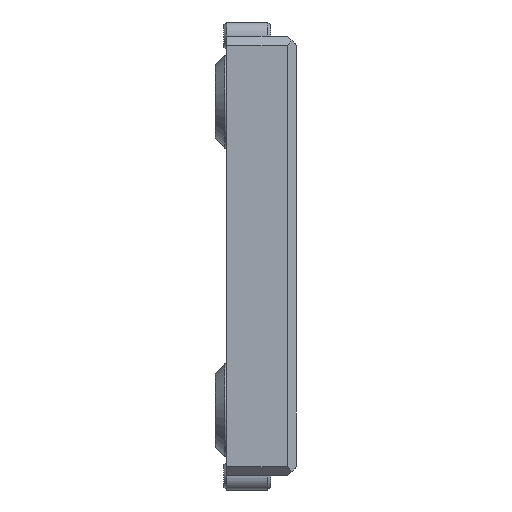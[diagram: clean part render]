
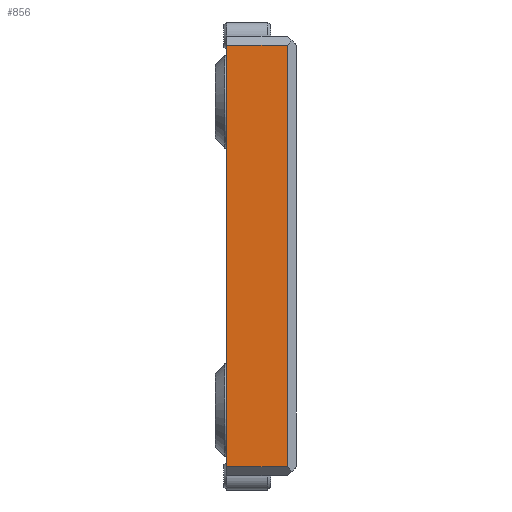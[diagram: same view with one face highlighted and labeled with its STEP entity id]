
A CAD part, left-side view. The second image highlights one B-rep face of the part: STEP entity #856.
In plain terms, the highlighted planar face has unit normal (-1, 0, 0).
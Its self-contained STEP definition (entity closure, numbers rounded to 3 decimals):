
#528=FACE_OUTER_BOUND('',#3243,.T.);
#856=ADVANCED_FACE('',(#528),#1221,.T.);
#1221=PLANE('',#7227);
#1847=LINE('',#9797,#2522);
#1848=LINE('',#9800,#2523);
#1849=LINE('',#9802,#2524);
#1850=LINE('',#9804,#2525);
#2522=VECTOR('',#7836,1.);
#2523=VECTOR('',#7837,1.);
#2524=VECTOR('',#7838,1.);
#2525=VECTOR('',#7839,1.);
#3243=EDGE_LOOP('',(#3915,#3916,#3917,#3918));
#3915=ORIENTED_EDGE('',*,*,#6380,.T.);
#3916=ORIENTED_EDGE('',*,*,#6381,.T.);
#3917=ORIENTED_EDGE('',*,*,#6382,.T.);
#3918=ORIENTED_EDGE('',*,*,#6383,.T.);
#5747=VERTEX_POINT('',#9798);
#5748=VERTEX_POINT('',#9799);
#5749=VERTEX_POINT('',#9801);
#5750=VERTEX_POINT('',#9803);
#6380=EDGE_CURVE('',#5747,#5748,#1847,.T.);
#6381=EDGE_CURVE('',#5748,#5749,#1848,.T.);
#6382=EDGE_CURVE('',#5749,#5750,#1849,.T.);
#6383=EDGE_CURVE('',#5750,#5747,#1850,.T.);
#7227=AXIS2_PLACEMENT_3D('',#9805,#7840,#7841);
#7836=DIRECTION('',(0.,0.,-1.));
#7837=DIRECTION('',(0.,-1.,0.));
#7838=DIRECTION('',(0.,0.,1.));
#7839=DIRECTION('',(0.,1.,0.));
#7840=DIRECTION('',(-1.,0.,0.));
#7841=DIRECTION('',(0.,-1.,0.));
#9797=CARTESIAN_POINT('',(105.,-130.605,-116.25));
#9798=CARTESIAN_POINT('',(105.,-130.605,-93.75));
#9799=CARTESIAN_POINT('',(105.,-130.605,-138.75));
#9800=CARTESIAN_POINT('',(105.,-130.605,-138.75));
#9801=CARTESIAN_POINT('',(105.,-137.105,-138.75));
#9802=CARTESIAN_POINT('',(105.,-137.105,-116.25));
#9803=CARTESIAN_POINT('',(105.,-137.105,-93.75));
#9804=CARTESIAN_POINT('',(105.,-130.605,-93.75));
#9805=CARTESIAN_POINT('',(105.,-130.605,-116.25));
